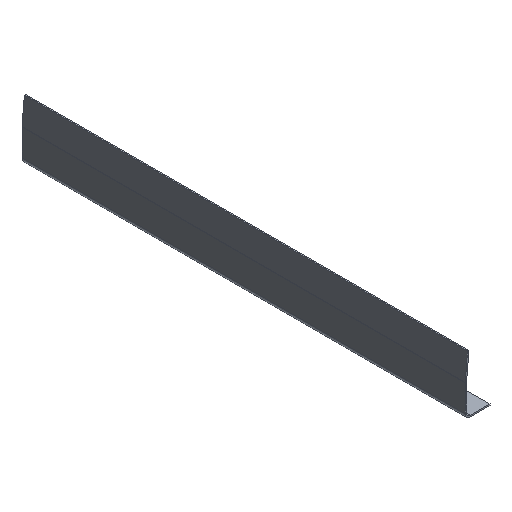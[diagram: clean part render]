
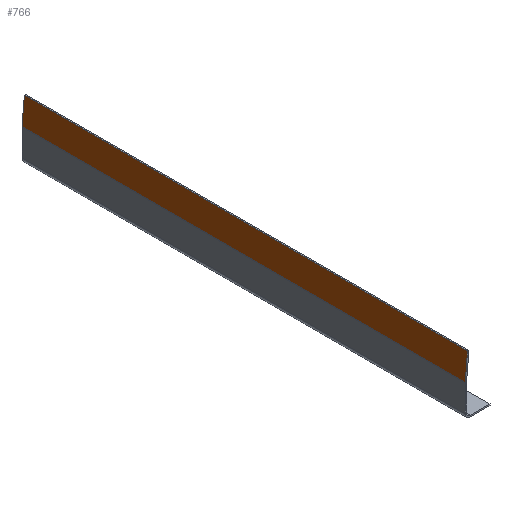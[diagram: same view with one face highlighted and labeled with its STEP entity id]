
A CAD part, isometric view. The second image highlights one B-rep face of the part: STEP entity #766.
In plain terms, the highlighted planar face has unit normal (-0.996, 0, 0.087).
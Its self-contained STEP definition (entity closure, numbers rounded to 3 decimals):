
#32 = PLANE('',#33);
#33 = AXIS2_PLACEMENT_3D('',#34,#35,#36);
#34 = CARTESIAN_POINT('',(2.696,0.,
    11.979));
#35 = DIRECTION('',(0.,1.,0.));
#36 = DIRECTION('',(0.,0.,1.));
#118 = VERTEX_POINT('',#119);
#119 = CARTESIAN_POINT('',(0.011,0.,
    18.179));
#138 = CYLINDRICAL_SURFACE('',#139,2.8);
#139 = AXIS2_PLACEMENT_3D('',#140,#141,#142);
#140 = CARTESIAN_POINT('',(2.8,0.,17.935));
#141 = DIRECTION('',(0.,-1.,0.));
#142 = DIRECTION('',(-0.996,0.,
    0.087));
#150 = EDGE_CURVE('',#118,#151,#153,.T.);
#151 = VERTEX_POINT('',#152);
#152 = CARTESIAN_POINT('',(1.307,0.,33.));
#153 = SURFACE_CURVE('',#154,(#158,#165),.PCURVE_S1.);
#154 = LINE('',#155,#156);
#155 = CARTESIAN_POINT('',(0.,0.,18.057));
#156 = VECTOR('',#157,1.);
#157 = DIRECTION('',(0.087,0.,
    0.996));
#158 = PCURVE('',#32,#159);
#159 = DEFINITIONAL_REPRESENTATION('',(#160),#164);
#160 = LINE('',#161,#162);
#161 = CARTESIAN_POINT('',(6.078,-2.696));
#162 = VECTOR('',#163,1.);
#163 = DIRECTION('',(0.996,0.087));
#164 = ( GEOMETRIC_REPRESENTATION_CONTEXT(2) 
PARAMETRIC_REPRESENTATION_CONTEXT() REPRESENTATION_CONTEXT('2D SPACE',''
  ) );
#165 = PCURVE('',#166,#171);
#166 = PLANE('',#167);
#167 = AXIS2_PLACEMENT_3D('',#168,#169,#170);
#168 = CARTESIAN_POINT('',(0.,0.,18.057));
#169 = DIRECTION('',(-0.996,0.,
    0.087));
#170 = DIRECTION('',(0.087,0.,
    0.996));
#171 = DEFINITIONAL_REPRESENTATION('',(#172),#176);
#172 = LINE('',#173,#174);
#173 = CARTESIAN_POINT('',(0.,0.));
#174 = VECTOR('',#175,1.);
#175 = DIRECTION('',(1.,0.));
#176 = ( GEOMETRIC_REPRESENTATION_CONTEXT(2) 
PARAMETRIC_REPRESENTATION_CONTEXT() REPRESENTATION_CONTEXT('2D SPACE',''
  ) );
#194 = PLANE('',#195);
#195 = AXIS2_PLACEMENT_3D('',#196,#197,#198);
#196 = CARTESIAN_POINT('',(1.307,0.,33.));
#197 = DIRECTION('',(0.087,0.,
    0.996));
#198 = DIRECTION('',(0.996,0.,
    -0.087));
#403 = PLANE('',#404);
#404 = AXIS2_PLACEMENT_3D('',#405,#406,#407);
#405 = CARTESIAN_POINT('',(2.696,-250.,11.979));
#406 = DIRECTION('',(0.,1.,0.));
#407 = DIRECTION('',(0.,0.,1.));
#665 = VERTEX_POINT('',#666);
#666 = CARTESIAN_POINT('',(0.011,-250.,18.179));
#692 = EDGE_CURVE('',#118,#665,#693,.T.);
#693 = SURFACE_CURVE('',#694,(#698,#705),.PCURVE_S1.);
#694 = LINE('',#695,#696);
#695 = CARTESIAN_POINT('',(0.011,0.,
    18.179));
#696 = VECTOR('',#697,1.);
#697 = DIRECTION('',(0.,-1.,0.));
#698 = PCURVE('',#138,#699);
#699 = DEFINITIONAL_REPRESENTATION('',(#700),#704);
#700 = LINE('',#701,#702);
#701 = CARTESIAN_POINT('',(0.,0.));
#702 = VECTOR('',#703,1.);
#703 = DIRECTION('',(0.,1.));
#704 = ( GEOMETRIC_REPRESENTATION_CONTEXT(2) 
PARAMETRIC_REPRESENTATION_CONTEXT() REPRESENTATION_CONTEXT('2D SPACE',''
  ) );
#705 = PCURVE('',#166,#706);
#706 = DEFINITIONAL_REPRESENTATION('',(#707),#711);
#707 = LINE('',#708,#709);
#708 = CARTESIAN_POINT('',(0.122,0.));
#709 = VECTOR('',#710,1.);
#710 = DIRECTION('',(0.,-1.));
#711 = ( GEOMETRIC_REPRESENTATION_CONTEXT(2) 
PARAMETRIC_REPRESENTATION_CONTEXT() REPRESENTATION_CONTEXT('2D SPACE',''
  ) );
#766 = ADVANCED_FACE('',(#767),#166,.T.);
#767 = FACE_BOUND('',#768,.T.);
#768 = EDGE_LOOP('',(#769,#792,#813,#814));
#769 = ORIENTED_EDGE('',*,*,#770,.T.);
#770 = EDGE_CURVE('',#665,#771,#773,.T.);
#771 = VERTEX_POINT('',#772);
#772 = CARTESIAN_POINT('',(1.307,-250.,33.));
#773 = SURFACE_CURVE('',#774,(#778,#785),.PCURVE_S1.);
#774 = LINE('',#775,#776);
#775 = CARTESIAN_POINT('',(0.,-250.,18.057));
#776 = VECTOR('',#777,1.);
#777 = DIRECTION('',(0.087,0.,
    0.996));
#778 = PCURVE('',#166,#779);
#779 = DEFINITIONAL_REPRESENTATION('',(#780),#784);
#780 = LINE('',#781,#782);
#781 = CARTESIAN_POINT('',(0.,-250.));
#782 = VECTOR('',#783,1.);
#783 = DIRECTION('',(1.,0.));
#784 = ( GEOMETRIC_REPRESENTATION_CONTEXT(2) 
PARAMETRIC_REPRESENTATION_CONTEXT() REPRESENTATION_CONTEXT('2D SPACE',''
  ) );
#785 = PCURVE('',#403,#786);
#786 = DEFINITIONAL_REPRESENTATION('',(#787),#791);
#787 = LINE('',#788,#789);
#788 = CARTESIAN_POINT('',(6.078,-2.696));
#789 = VECTOR('',#790,1.);
#790 = DIRECTION('',(0.996,0.087));
#791 = ( GEOMETRIC_REPRESENTATION_CONTEXT(2) 
PARAMETRIC_REPRESENTATION_CONTEXT() REPRESENTATION_CONTEXT('2D SPACE',''
  ) );
#792 = ORIENTED_EDGE('',*,*,#793,.F.);
#793 = EDGE_CURVE('',#151,#771,#794,.T.);
#794 = SURFACE_CURVE('',#795,(#799,#806),.PCURVE_S1.);
#795 = LINE('',#796,#797);
#796 = CARTESIAN_POINT('',(1.307,0.,33.));
#797 = VECTOR('',#798,1.);
#798 = DIRECTION('',(0.,-1.,0.));
#799 = PCURVE('',#166,#800);
#800 = DEFINITIONAL_REPRESENTATION('',(#801),#805);
#801 = LINE('',#802,#803);
#802 = CARTESIAN_POINT('',(15.,0.));
#803 = VECTOR('',#804,1.);
#804 = DIRECTION('',(0.,-1.));
#805 = ( GEOMETRIC_REPRESENTATION_CONTEXT(2) 
PARAMETRIC_REPRESENTATION_CONTEXT() REPRESENTATION_CONTEXT('2D SPACE',''
  ) );
#806 = PCURVE('',#194,#807);
#807 = DEFINITIONAL_REPRESENTATION('',(#808),#812);
#808 = LINE('',#809,#810);
#809 = CARTESIAN_POINT('',(0.,0.));
#810 = VECTOR('',#811,1.);
#811 = DIRECTION('',(0.,-1.));
#812 = ( GEOMETRIC_REPRESENTATION_CONTEXT(2) 
PARAMETRIC_REPRESENTATION_CONTEXT() REPRESENTATION_CONTEXT('2D SPACE',''
  ) );
#813 = ORIENTED_EDGE('',*,*,#150,.F.);
#814 = ORIENTED_EDGE('',*,*,#692,.T.);
